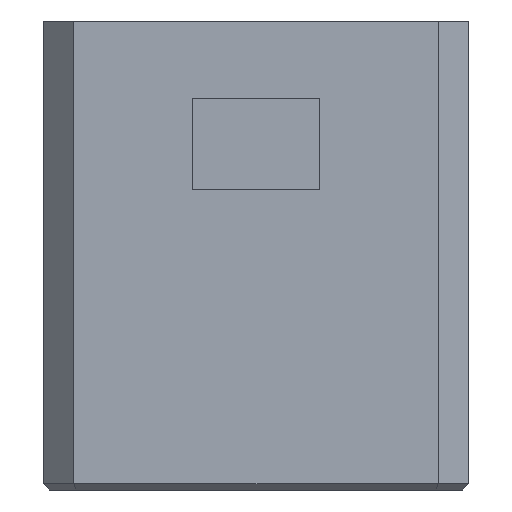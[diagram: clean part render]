
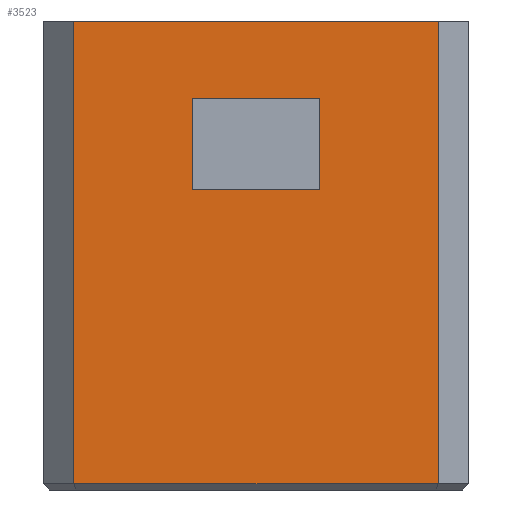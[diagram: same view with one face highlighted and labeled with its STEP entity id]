
A CAD part, left-side view. The second image highlights one B-rep face of the part: STEP entity #3523.
In plain terms, the highlighted planar face has unit normal (-1, 0, 0).
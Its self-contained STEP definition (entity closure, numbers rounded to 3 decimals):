
#162=FACE_BOUND('',#392,.T.);
#195=FACE_OUTER_BOUND('',#391,.T.);
#391=EDGE_LOOP('',(#2359,#2360,#2361,#2362));
#392=EDGE_LOOP('',(#2363,#2364,#2365,#2366));
#612=LINE('',#5039,#1042);
#630=LINE('',#5075,#1060);
#632=LINE('',#5079,#1062);
#633=LINE('',#5080,#1063);
#634=LINE('',#5083,#1064);
#635=LINE('',#5085,#1065);
#636=LINE('',#5087,#1066);
#637=LINE('',#5088,#1067);
#1042=VECTOR('',#4034,10.);
#1060=VECTOR('',#4060,10.);
#1062=VECTOR('',#4064,10.);
#1063=VECTOR('',#4065,10.);
#1064=VECTOR('',#4066,10.);
#1065=VECTOR('',#4067,10.);
#1066=VECTOR('',#4068,10.);
#1067=VECTOR('',#4069,10.);
#1469=VERTEX_POINT('',#5032);
#1471=VERTEX_POINT('',#5038);
#1485=VERTEX_POINT('',#5074);
#1486=VERTEX_POINT('',#5078);
#1487=VERTEX_POINT('',#5081);
#1488=VERTEX_POINT('',#5082);
#1489=VERTEX_POINT('',#5084);
#1490=VERTEX_POINT('',#5086);
#1809=EDGE_CURVE('',#1471,#1469,#612,.T.);
#1827=EDGE_CURVE('',#1469,#1485,#630,.T.);
#1829=EDGE_CURVE('',#1486,#1471,#632,.T.);
#1830=EDGE_CURVE('',#1485,#1486,#633,.T.);
#1831=EDGE_CURVE('',#1487,#1488,#634,.T.);
#1832=EDGE_CURVE('',#1488,#1489,#635,.T.);
#1833=EDGE_CURVE('',#1489,#1490,#636,.T.);
#1834=EDGE_CURVE('',#1490,#1487,#637,.T.);
#2359=ORIENTED_EDGE('',*,*,#1809,.F.);
#2360=ORIENTED_EDGE('',*,*,#1829,.F.);
#2361=ORIENTED_EDGE('',*,*,#1830,.F.);
#2362=ORIENTED_EDGE('',*,*,#1827,.F.);
#2363=ORIENTED_EDGE('',*,*,#1831,.T.);
#2364=ORIENTED_EDGE('',*,*,#1832,.T.);
#2365=ORIENTED_EDGE('',*,*,#1833,.T.);
#2366=ORIENTED_EDGE('',*,*,#1834,.T.);
#3378=PLANE('',#3741);
#3523=ADVANCED_FACE('',(#195,#162),#3378,.T.);
#3741=AXIS2_PLACEMENT_3D('',#5077,#4062,#4063);
#4034=DIRECTION('',(0.,1.,0.));
#4060=DIRECTION('',(0.,0.,1.));
#4062=DIRECTION('center_axis',(-1.,0.,0.));
#4063=DIRECTION('ref_axis',(0.,-1.,0.));
#4064=DIRECTION('',(0.,0.,-1.));
#4065=DIRECTION('',(0.,-1.,0.));
#4066=DIRECTION('',(0.,0.,-1.));
#4067=DIRECTION('',(0.,1.,0.));
#4068=DIRECTION('',(0.,0.,1.));
#4069=DIRECTION('',(0.,-1.,0.));
#5032=CARTESIAN_POINT('',(-50.,30.,-1.));
#5038=CARTESIAN_POINT('',(-50.,-30.,-1.));
#5039=CARTESIAN_POINT('',(-50.,15.,-1.));
#5074=CARTESIAN_POINT('',(-50.,30.,75.));
#5075=CARTESIAN_POINT('',(-50.,30.,0.));
#5077=CARTESIAN_POINT('Origin',(-50.,30.,0.));
#5078=CARTESIAN_POINT('',(-50.,-30.,75.));
#5079=CARTESIAN_POINT('',(-50.,-30.,0.));
#5080=CARTESIAN_POINT('',(-50.,30.,75.));
#5081=CARTESIAN_POINT('',(-50.,-10.5,62.408));
#5082=CARTESIAN_POINT('',(-50.,-10.5,47.408));
#5083=CARTESIAN_POINT('',(-50.,-10.5,31.204));
#5084=CARTESIAN_POINT('',(-50.,10.5,47.408));
#5085=CARTESIAN_POINT('',(-50.,9.75,47.408));
#5086=CARTESIAN_POINT('',(-50.,10.5,62.408));
#5087=CARTESIAN_POINT('',(-50.,10.5,23.704));
#5088=CARTESIAN_POINT('',(-50.,20.25,62.408));
